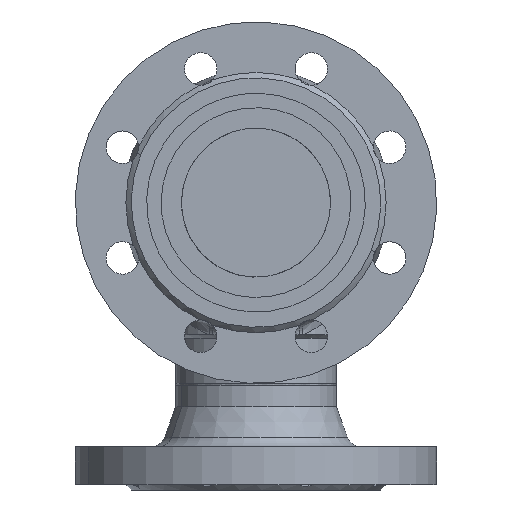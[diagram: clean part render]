
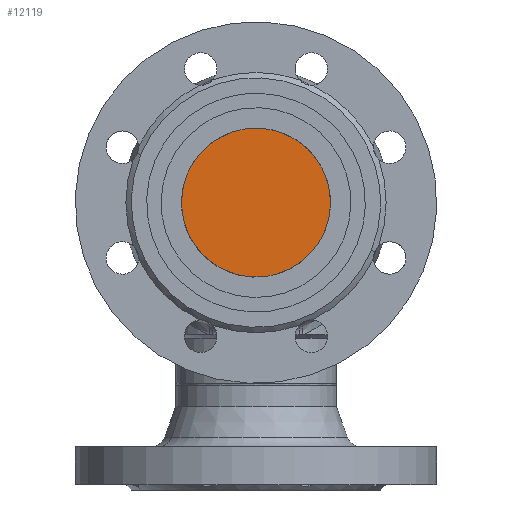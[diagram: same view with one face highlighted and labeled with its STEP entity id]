
A CAD part, front view. The second image highlights one B-rep face of the part: STEP entity #12119.
In plain terms, the highlighted planar face has unit normal (0, -1, 0) as drawn and (0, 0, 1) by its records, which use the part's own axes.
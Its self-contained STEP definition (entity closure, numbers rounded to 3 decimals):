
#17159 = CARTESIAN_POINT ( 'NONE',  ( -47., 0., 14. ) ) ;
#2732 = EDGE_CURVE ( 'NONE', #11020, #11238, #5891, .T. ) ;
#5036 = CARTESIAN_POINT ( 'NONE',  ( 47., 0., 14. ) ) ;
#5286 = CIRCLE ( 'NONE', #5287, 47. ) ;
#5287 = AXIS2_PLACEMENT_3D ( 'NONE', #5288, #5289, #5290 ) ;
#5288 = CARTESIAN_POINT ( 'NONE',  ( 0., 0., 14. ) ) ;
#5289 = DIRECTION ( 'NONE',  ( 0., 0., 1. ) ) ;
#5290 = DIRECTION ( 'NONE',  ( 1., 0., 0. ) ) ;
#5891 = CIRCLE ( 'NONE', #5892, 47. ) ;
#5892 = AXIS2_PLACEMENT_3D ( 'NONE', #5893, #5894, #5895 ) ;
#5893 = CARTESIAN_POINT ( 'NONE',  ( 0., 0., 14. ) ) ;
#5894 = DIRECTION ( 'NONE',  ( 0., 0., 1. ) ) ;
#5895 = DIRECTION ( 'NONE',  ( 1., 0., 0. ) ) ;
#6209 = FACE_OUTER_BOUND ( 'NONE', #11887, .T. ) ;
#6210 = PLANE ( 'NONE',  #6211 ) ;
#6211 = AXIS2_PLACEMENT_3D ( 'NONE', #6212, #6213, #6214 ) ;
#6212 = CARTESIAN_POINT ( 'NONE',  ( 0., 0., 14. ) ) ;
#6213 = DIRECTION ( 'NONE',  ( 0., 0., 1. ) ) ;
#6214 = DIRECTION ( 'NONE',  ( 1., 0., 0. ) ) ;
#10879 = ORIENTED_EDGE ( 'NONE', *, *, #11457, .T. ) ;
#11020 = VERTEX_POINT ( 'NONE', #17159 ) ;
#11238 = VERTEX_POINT ( 'NONE', #5036 ) ;
#11380 = ORIENTED_EDGE ( 'NONE', *, *, #2732, .T. ) ;
#11457 = EDGE_CURVE ( 'NONE', #11238, #11020, #5286, .T. ) ;
#11887 = EDGE_LOOP ( 'NONE', ( #11380, #10879 ) ) ;
#12119 = ADVANCED_FACE ( 'NONE', ( #6209 ), #6210, .T. ) ;
